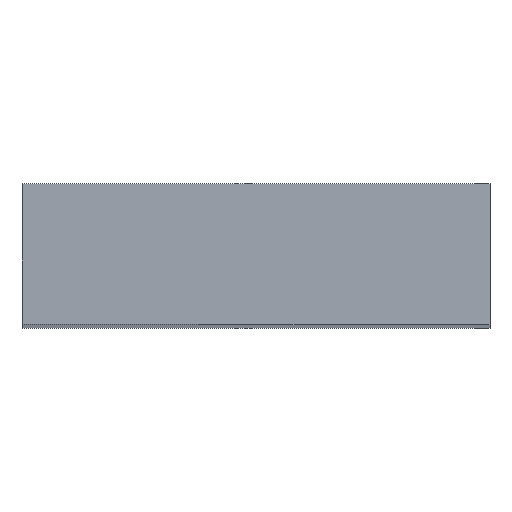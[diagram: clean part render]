
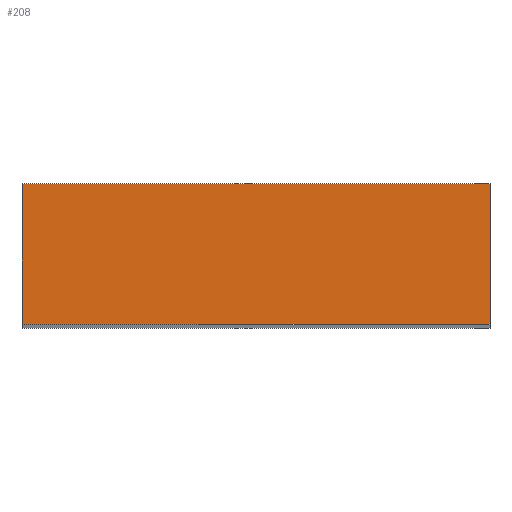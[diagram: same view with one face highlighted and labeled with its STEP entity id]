
A CAD part, top view. The second image highlights one B-rep face of the part: STEP entity #208.
In plain terms, the highlighted planar face has unit normal (0, 0, 1).
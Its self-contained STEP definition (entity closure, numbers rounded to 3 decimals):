
#22 = VERTEX_POINT('',#23);
#23 = CARTESIAN_POINT('',(10.,0.,49.4));
#31 = EDGE_CURVE('',#22,#32,#34,.T.);
#32 = VERTEX_POINT('',#33);
#33 = CARTESIAN_POINT('',(10.,-3.,49.4));
#34 = LINE('',#35,#36);
#35 = CARTESIAN_POINT('',(10.,0.,49.4));
#36 = VECTOR('',#37,1.);
#37 = DIRECTION('',(0.,-1.,0.));
#167 = VERTEX_POINT('',#168);
#168 = CARTESIAN_POINT('',(0.,0.,49.4));
#174 = EDGE_CURVE('',#167,#22,#175,.T.);
#175 = LINE('',#176,#177);
#176 = CARTESIAN_POINT('',(0.,0.,49.4));
#177 = VECTOR('',#178,1.);
#178 = DIRECTION('',(1.,0.,0.));
#208 = ADVANCED_FACE('',(#209),#227,.T.);
#209 = FACE_BOUND('',#210,.T.);
#210 = EDGE_LOOP('',(#211,#219,#225,#226));
#211 = ORIENTED_EDGE('',*,*,#212,.T.);
#212 = EDGE_CURVE('',#167,#213,#215,.T.);
#213 = VERTEX_POINT('',#214);
#214 = CARTESIAN_POINT('',(0.,-3.,49.4));
#215 = LINE('',#216,#217);
#216 = CARTESIAN_POINT('',(0.,0.,49.4));
#217 = VECTOR('',#218,1.);
#218 = DIRECTION('',(0.,-1.,0.));
#219 = ORIENTED_EDGE('',*,*,#220,.T.);
#220 = EDGE_CURVE('',#213,#32,#221,.T.);
#221 = LINE('',#222,#223);
#222 = CARTESIAN_POINT('',(0.,-3.,49.4));
#223 = VECTOR('',#224,1.);
#224 = DIRECTION('',(1.,0.,0.));
#225 = ORIENTED_EDGE('',*,*,#31,.F.);
#226 = ORIENTED_EDGE('',*,*,#174,.F.);
#227 = PLANE('',#228);
#228 = AXIS2_PLACEMENT_3D('',#229,#230,#231);
#229 = CARTESIAN_POINT('',(0.,0.,49.4));
#230 = DIRECTION('',(0.,0.,1.));
#231 = DIRECTION('',(1.,0.,0.));
